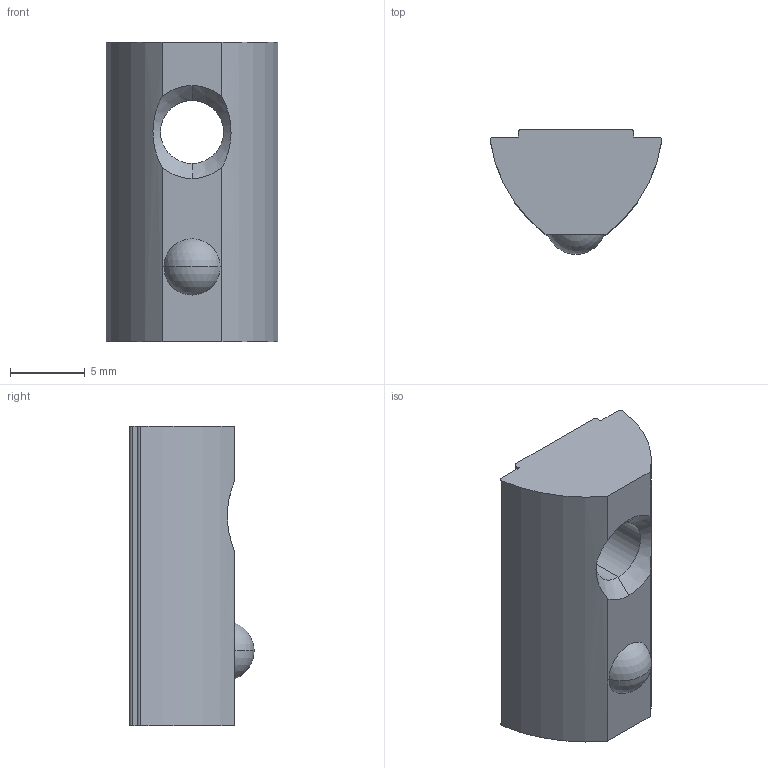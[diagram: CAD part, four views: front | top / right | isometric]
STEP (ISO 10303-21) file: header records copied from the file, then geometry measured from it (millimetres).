
FILE_DESCRIPTION (( 'STEP AP203' ), '1' );
FILE_NAME ('LIMA-LHNR5-83030.STEP', '2018-03-15T12:18:01', ( '' ), ( '' ), 'SwSTEP 2.0', 'SolidWorks 2013', '' );
FILE_SCHEMA (( 'CONFIG_CONTROL_DESIGN' ));
Length unit declared in the file: millimetre
Products named in the file (1): LIMA-LHNR5-83030
Bounding box: 11.44 x 8.3 x 20 mm (x, y, z)
Volume: 1142.8 mm3; surface area: 812 mm2
Topology: 1 solids, 1 shells, 24 faces, 63 edges, 41 vertices
Faces by surface type: cylinder 9, plane 9, cone 4, sphere 2
Entity records: 858 total; most frequent: CARTESIAN_POINT 159, DIRECTION 139, ORIENTED_EDGE 126, EDGE_CURVE 63, AXIS2_PLACEMENT_3D 53, VERTEX_POINT 41, VECTOR 33, LINE 33
